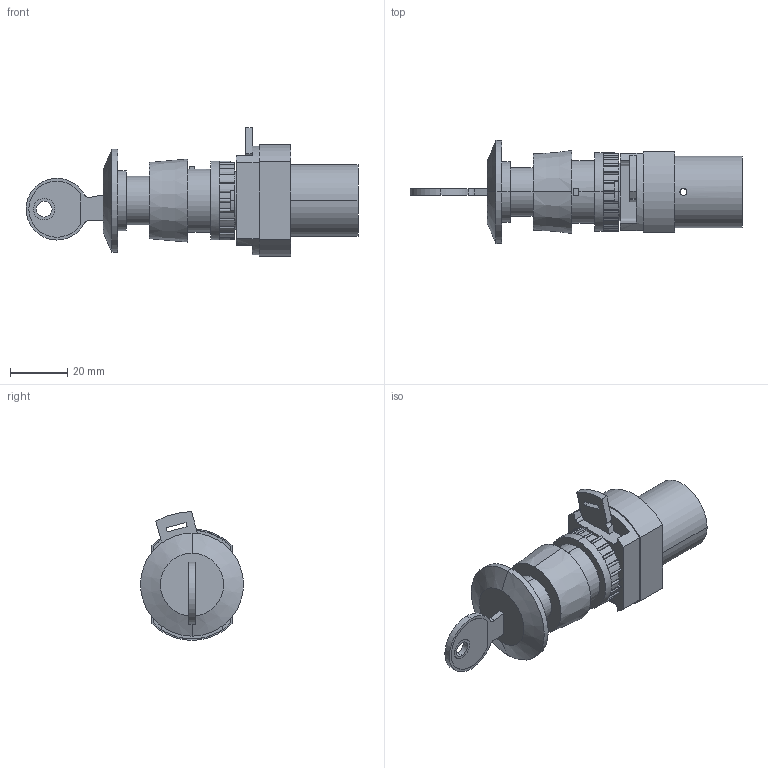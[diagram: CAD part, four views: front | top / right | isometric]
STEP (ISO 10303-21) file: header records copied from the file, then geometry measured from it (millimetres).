
FILE_DESCRIPTION (( 'STEP AP203' ), '1' );
FILE_NAME ('18-T-23-015_T-30-310-Airtec.step', '2006-10-31T13:16:49', ( 'Gustaf Hederström' ), ( 'Cevican AB' ), 'SwSTEP 2.0', 'SolidWorks 2002308', '' );
FILE_SCHEMA (( 'CONFIG_CONTROL_DESIGN' ));
Length unit declared in the file: millimetre
Products named in the file (3): 18-T-23-015_T-30-310-Airtec; 18-T-23-015-Airtec; T-30-310-Airtec
Assembly tree (2 placements, depth 2):
  18-T-23-015_T-30-310-Airtec
    T-30-310-Airtec
    18-T-23-015-Airtec
Bounding box: 116 x 36 x 45 mm (x, y, z)
Volume: 50912.7 mm3; surface area: 16230.9 mm2
Topology: 2 solids, 2 shells, 337 faces, 911 edges, 592 vertices
Faces by surface type: cylinder 186, plane 139, cone 10, bspline 2
Entity records: 11120 total; most frequent: DIRECTION 2033, CARTESIAN_POINT 1940, ORIENTED_EDGE 1810, EDGE_CURVE 905, AXIS2_PLACEMENT_3D 793, VERTEX_POINT 592, CIRCLE 453, LINE 447
